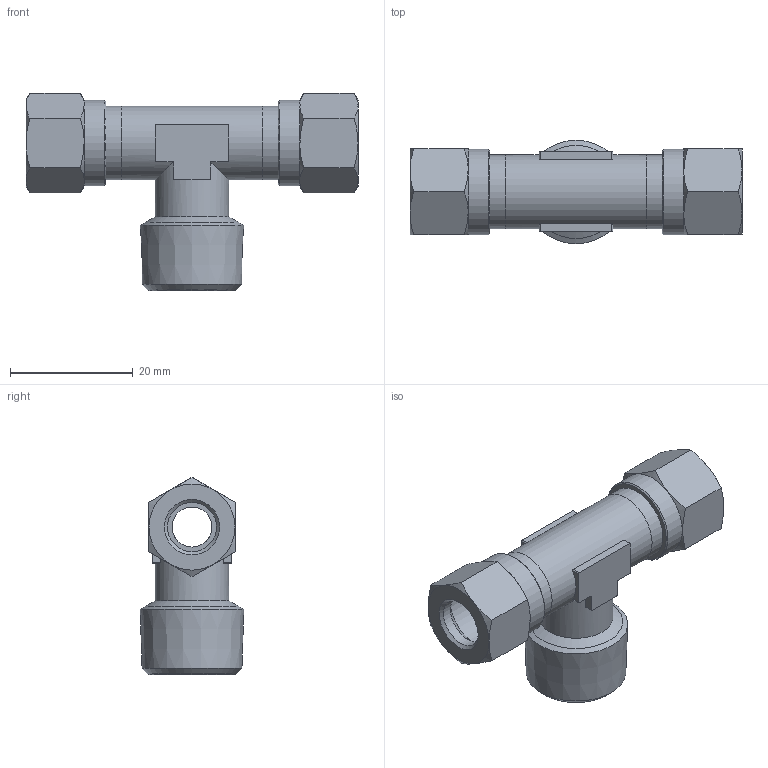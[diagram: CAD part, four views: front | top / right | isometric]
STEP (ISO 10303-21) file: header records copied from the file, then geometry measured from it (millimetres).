
FILE_DESCRIPTION(('Bauteilbeschreibung','HiCAD-Model','HiCAD-STEP-TRANSLATION','Bauteilbeschreibung'),'2;1');
FILE_NAME('B:/ABGLEICH/ZEICHNUNGEN/STEP FÜR INTERNET/STEP/207/92206_207_8_3-8.STP','2011-10-18T10:33:45+00:00',('Konstrukteur'),('Konstrukteur Firma GmbH'),' HiCAD neXt 2008, Step 3.1.1401.2J ','HiCAD neXt 2008','confidential');
FILE_SCHEMA(('AUTOMOTIVE_DESIGN { 1 2 10303 214 0 1 1 1 }'));
Length unit declared in the file: millimetre
Products named in the file (12): A2206_207_8_3_8; A2206; A22060; DIN 13_M12X1; DIN0130M12X1; R 3_8; A6803; A68030; DIN0130M12X10; A68031; A68032; DIN0130M12X11
Assembly tree (11 placements, depth 3):
  A2206_207_8_3_8
    A2206
    A22060
      DIN 13_M12X1
      DIN0130M12X1
      R 3_8
    A6803
    A68030
      DIN0130M12X10
    A68031
    A68032
      DIN0130M12X11
Bounding box: 54 x 16.84 x 32.08 mm (x, y, z)
Volume: 6701.2 mm3; surface area: 10016.3 mm2
Topology: 8 solids, 8 shells, 128 faces, 314 edges, 203 vertices
Faces by surface type: plane 49, cone 40, cylinder 39
Full cylindrical faces by diameter (mm): 6.5 x1, 8 x5, 10.773 x6, 11 x1, 12 x8, 13.9 x2
Entity records: 8351 total; most frequent: CARTESIAN_POINT 4387, DIRECTION 574, ORIENTED_EDGE 470, AXIS2_PLACEMENT_3D 252, EDGE_CURVE 235, COLOUR_RGB 216, PRESENTATION_STYLE_ASSIGNMENT 216, CURVE_STYLE 208
